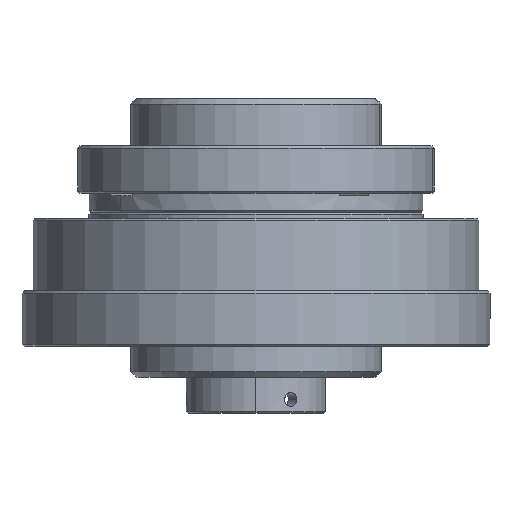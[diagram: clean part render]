
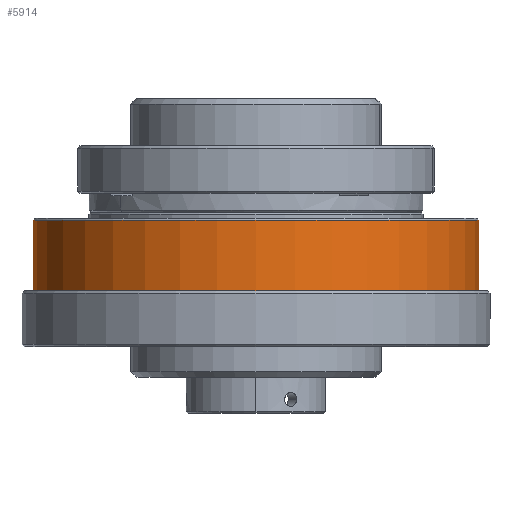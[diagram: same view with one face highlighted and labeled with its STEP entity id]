
A CAD part, front view. The second image highlights one B-rep face of the part: STEP entity #5914.
In plain terms, the highlighted cylindrical face has radius 40 mm (diameter 80 mm), a partial arc.
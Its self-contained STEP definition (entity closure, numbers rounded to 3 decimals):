
#353 = CARTESIAN_POINT ( 'NONE',  ( -40.686, -3.086, 88.5 ) ) ;
#684 = DIRECTION ( 'NONE',  ( 0., 0., -1. ) ) ;
#883 = DIRECTION ( 'NONE',  ( -1., 0., 0. ) ) ;
#892 = CARTESIAN_POINT ( 'NONE',  ( -0.686, -3.086, 71.8 ) ) ;
#964 = DIRECTION ( 'NONE',  ( 0., 0., 1. ) ) ;
#972 = CARTESIAN_POINT ( 'NONE',  ( -0.686, -3.086, 88.5 ) ) ;
#2103 = LINE ( 'NONE', #6225, #10522 ) ;
#2165 = EDGE_CURVE ( 'NONE', #9781, #9767, #2918, .T. ) ;
#2768 = VECTOR ( 'NONE', #6085, 1000. ) ;
#2918 = LINE ( 'NONE', #353, #2768 ) ;
#3655 = CYLINDRICAL_SURFACE ( 'NONE', #9000, 40. ) ;
#3802 = FACE_OUTER_BOUND ( 'NONE', #4380, .T. ) ;
#4068 = DIRECTION ( 'NONE',  ( 1., 0., 0. ) ) ;
#4380 = EDGE_LOOP ( 'NONE', ( #10252, #10248, #5160, #8349 ) ) ;
#4848 = CARTESIAN_POINT ( 'NONE',  ( 39.314, -3.086, 71.8 ) ) ;
#4867 = EDGE_CURVE ( 'NONE', #9442, #9781, #8878, .T. ) ;
#5058 = EDGE_CURVE ( 'NONE', #9767, #8571, #8026, .T. ) ;
#5160 = ORIENTED_EDGE ( 'NONE', *, *, #2165, .T. ) ;
#5205 = AXIS2_PLACEMENT_3D ( 'NONE', #10273, #10372, #10407 ) ;
#5827 = AXIS2_PLACEMENT_3D ( 'NONE', #892, #964, #4068 ) ;
#5914 = ADVANCED_FACE ( 'NONE', ( #3802 ), #3655, .T. ) ;
#5983 = CARTESIAN_POINT ( 'NONE',  ( 39.314, -3.086, 87.2 ) ) ;
#6085 = DIRECTION ( 'NONE',  ( 0., 0., -1. ) ) ;
#6225 = CARTESIAN_POINT ( 'NONE',  ( 39.314, -3.086, 88.5 ) ) ;
#6395 = DIRECTION ( 'NONE',  ( 0., 0., -1. ) ) ;
#8026 = CIRCLE ( 'NONE', #5827, 40. ) ;
#8349 = ORIENTED_EDGE ( 'NONE', *, *, #5058, .T. ) ;
#8480 = CARTESIAN_POINT ( 'NONE',  ( -40.686, -3.086, 87.2 ) ) ;
#8571 = VERTEX_POINT ( 'NONE', #4848 ) ;
#8878 = CIRCLE ( 'NONE', #5205, 40. ) ;
#9000 = AXIS2_PLACEMENT_3D ( 'NONE', #972, #684, #883 ) ;
#9442 = VERTEX_POINT ( 'NONE', #5983 ) ;
#9490 = EDGE_CURVE ( 'NONE', #9442, #8571, #2103, .T. ) ;
#9767 = VERTEX_POINT ( 'NONE', #10452 ) ;
#9781 = VERTEX_POINT ( 'NONE', #8480 ) ;
#10248 = ORIENTED_EDGE ( 'NONE', *, *, #4867, .T. ) ;
#10252 = ORIENTED_EDGE ( 'NONE', *, *, #9490, .F. ) ;
#10273 = CARTESIAN_POINT ( 'NONE',  ( -0.686, -3.086, 87.2 ) ) ;
#10372 = DIRECTION ( 'NONE',  ( 0., 0., -1. ) ) ;
#10407 = DIRECTION ( 'NONE',  ( 1., 0., 0. ) ) ;
#10452 = CARTESIAN_POINT ( 'NONE',  ( -40.686, -3.086, 71.8 ) ) ;
#10522 = VECTOR ( 'NONE', #6395, 1000. ) ;
